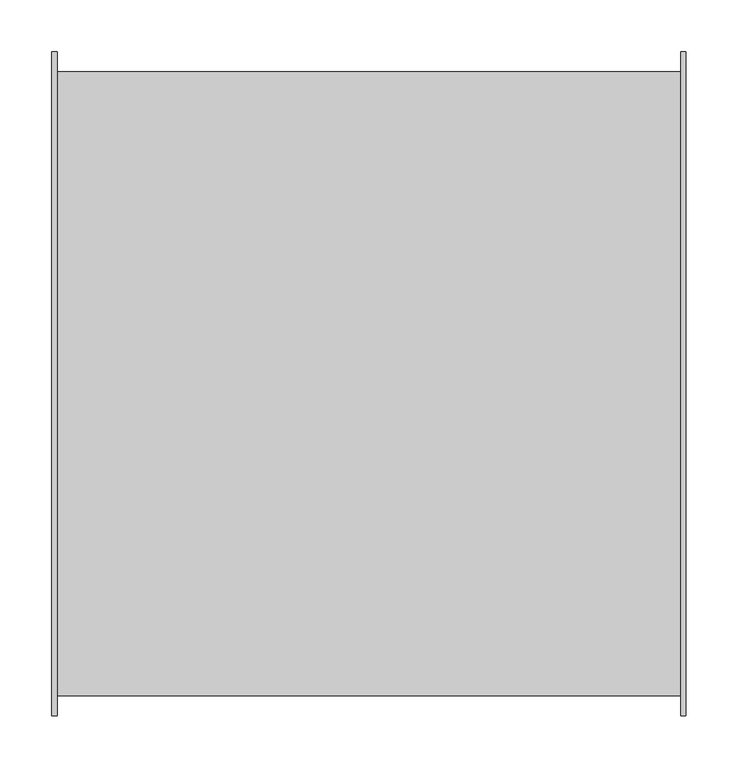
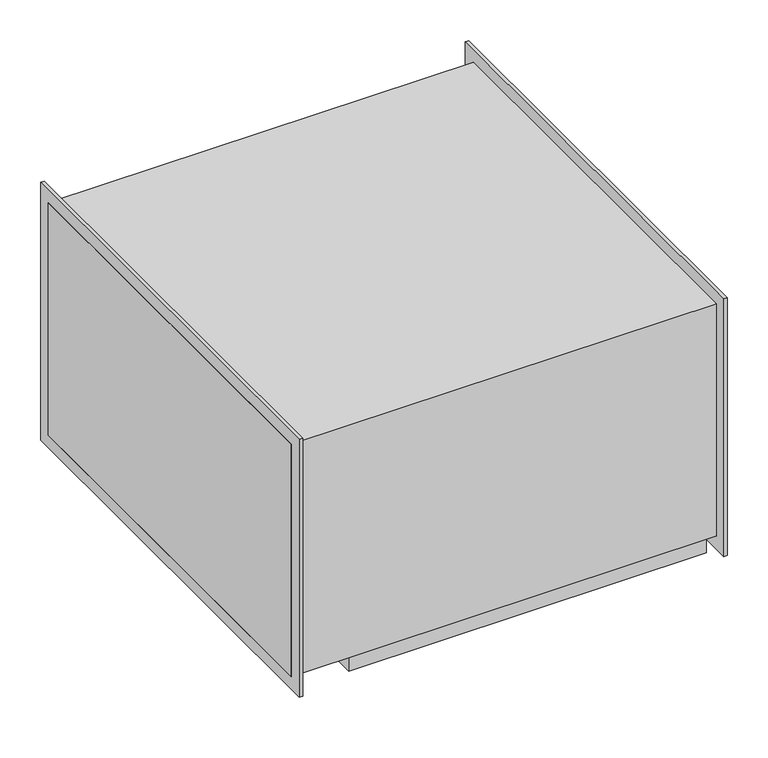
"""IFC4 building model written with IfcOpenShell, lengths in millimetres: unitary equipment geometry, VE-Wentylator-ParaForma-Harmann-DRB_EC-Nawiewny : 060/35/4600EC."""

from ifc_helpers import new_model, si_unit, point, frame, frame_2d, origin, place, context, project, spatial, polyline, circle_curve, trimmed, segment, composite_curve, outline, extrude, faceted_brep, source, transform, mapped, element, save
from ifc_brep_helpers import plane_surface, revolved_surface, advanced_brep


def unitary_equipment_bec6df93(model_context):
    return source(origin(), model_context, "Body", "SolidModel", [
        faceted_brep([(-213.5, -282.9, -209.0), (-213.5, -282.9, -175.0), (-213.5, 197.1, -175.0), (-213.5, 197.1, -209.0), (295.5, -282.9, -209.0), (295.5, 197.1, -209.0), (295.5, 197.1, -175.0), (295.5, -282.9, -175.0), (-208.5, 192.1, -209.0), (-208.5, -277.9, -209.0), (290.5, -277.9, -209.0), (290.5, 192.1, -209.0), (-208.5, 192.1, -175.0), (-208.5, -277.9, -175.0), (290.5, -277.9, -175.0), (290.5, 192.1, -175.0), (-305.0, -300.0, 175.0), (-305.0, -300.0, -175.0), (305.0, -300.0, -175.0), (305.0, -300.0, 175.0), (-305.0, 300.0, 175.0), (305.0, 300.0, 175.0), (-305.0, 300.0, -175.0), (305.0, 300.0, -175.0)], [[[0, 1, 2, 3]], [[4, 5, 6, 7]], [[1, 0, 4, 7]], [[3, 2, 6, 5]], [[0, 3, 5, 4], [8, 9, 10, 11]], [[8, 12, 13, 9]], [[10, 14, 15, 11]], [[9, 13, 14, 10]], [[12, 8, 11, 15]], [[16, 17, 18, 19]], [[20, 16, 19, 21]], [[22, 20, 21, 23]], [[13, 12, 15, 14]], [[18, 17, 22, 23], [2, 1, 7, 6]], [[17, 16, 20, 22]], [[18, 23, 21, 19]]]),
        extrude(outline(polyline([(-319.2, -194.2), (-319.2, 194.2), (319.2, 194.2), (319.2, -194.2), (-319.2, -194.2)]), holes=[polyline([(-300.0, -175.0), (300.0, -175.0), (300.0, 175.0), (-300.0, 175.0), (-300.0, -175.0)])]), frame((300.0, 0.0, 0.0), z_axis=(1.0, 0.0, 0.0), x_axis=(0.0, 1.0, 0.0)), (0.0, 0.0, 1.0), 5.0),
        extrude(outline(polyline([(-319.2, -194.2), (-319.2, 194.2), (319.2, 194.2), (319.2, -194.2), (-319.2, -194.2)]), holes=[polyline([(-300.0, -175.0), (300.0, -175.0), (300.0, 175.0), (-300.0, 175.0), (-300.0, -175.0)])]), frame((-305.0, 0.0, 0.0), z_axis=(1.0, 0.0, 0.0), x_axis=(0.0, 1.0, 0.0)), (0.0, 0.0, 1.0), 5.0),
        extrude(outline(composite_curve([segment(polyline([(77.5, 77.4), (-22.5, 77.4)]), True, "CONTINUOUS"), segment(trimmed(circle_curve(frame_2d((-22.5, 82.4)), 5.0), [point((-22.5, 77.4))], [point((-27.5, 82.4))], False, "CARTESIAN"), True, "CONTINUOUS"), segment(polyline([(-27.5, 82.4), (-27.5, 167.4)]), True, "CONTINUOUS"), segment(trimmed(circle_curve(frame_2d((-22.5, 167.4)), 5.0), [point((-27.5, 167.4))], [point((-22.5, 172.4))], False, "CARTESIAN"), True, "CONTINUOUS"), segment(polyline([(-22.5, 172.4), (77.5, 172.4)]), True, "CONTINUOUS"), segment(trimmed(circle_curve(frame_2d((77.5, 167.4)), 5.0), [point((77.5, 172.4))], [point((82.5, 167.4))], False, "CARTESIAN"), True, "CONTINUOUS"), segment(polyline([(82.5, 167.4), (82.5, 82.4)]), True, "CONTINUOUS"), segment(trimmed(circle_curve(frame_2d((77.5, 82.4)), 5.0), [point((82.5, 82.4))], [point((77.5, 77.4))], False, "CARTESIAN"), True, "CONTINUOUS")], self_intersect=False)), frame((0.0, 0.0, -224.5), z_axis=(0.0, 0.0, 1.0), x_axis=(1.0, 0.0, 0.0)), (0.0, 0.0, 1.0), 49.5),
        advanced_brep(
        [(27.5, -80.65, -190.0), (27.5, -5.15, -190.0), (27.5, -100.65, -175.0), (27.5, 14.85, -175.0)],
        [
            (0, 1, circle_curve(frame((27.5, -42.9, -190.0), z_axis=(0.0, 0.0, -1.0), x_axis=(0.0, -1.0, 0.0)), 37.75)),
            (1, 0, circle_curve(frame((27.5, -42.9, -190.0), z_axis=(0.0, 0.0, -1.0), x_axis=(0.0, 1.0, 0.0)), 37.75)),
            (2, 3, circle_curve(frame((27.5, -42.9, -175.0), z_axis=(0.0, 0.0, 1.0), x_axis=(0.0, 1.0, 0.0)), 57.75)),
            (3, 2, circle_curve(frame((27.5, -42.9, -175.0), z_axis=(0.0, 0.0, 1.0), x_axis=(0.0, -1.0, 0.0)), 57.75)),
            (3, 1),
            (0, 2),
        ],
        [
            plane_surface(frame((27.5, -42.9, -190.0), z_axis=(0.0, 0.0, -1.0), x_axis=(-1.0, 0.0, 0.0))),
            plane_surface(frame((27.5, -42.9, -175.0), z_axis=(0.0, 0.0, 1.0), x_axis=(-1.0, 0.0, 0.0))),
            revolved_surface(polyline([(27.5, -80.65, -190.0), (27.5, -100.65, -175.0)]), (27.5, -42.9, -218.3125), (0.0, 0.0, 1.0)),
            revolved_surface(polyline([(27.5, -5.149999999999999, -190.0), (27.5, 14.850000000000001, -175.0)]), (27.5, -42.9, -218.3125), (0.0, 0.0, 1.0)),
        ],
        [
            (0, [[1, 2]]),
            (1, [[3, 4]]),
            (2, [[-4, 5, -1, 6]]),
            (3, [[-3, -6, -2, -5]]),
        ],
    ),
    ])


if __name__ == "__main__":
    model = new_model("IFC4")
    model_context = context("Model", 3, world=origin())
    ifc_project = project(units=[si_unit("LENGTHUNIT", "METRE", prefix="MILLI")], contexts=[model_context])
    site = spatial("IfcSite", under=ifc_project)
    building = spatial("IfcBuilding", under=site)
    placement = place(None, origin())
    unitary_equipment_shape = unitary_equipment_bec6df93(model_context)
    element("IfcUnitaryEquipment", 1, ObjectType="VE-Wentylator-ParaForma-Harmann-DRB_EC-Nawiewny : 060/35/4600EC", at=placement, inside=building, context=model_context, shape_type="MappedRepresentation", body=[
        mapped(unitary_equipment_shape, transform((0.0, 0.0, 0.0), x_axis=(1.0, 0.0, 0.0), y_axis=(0.0, 1.0, 0.0), z_axis=(0.0, 0.0, 1.0))),
    ])
    save(model, "model.ifc")
